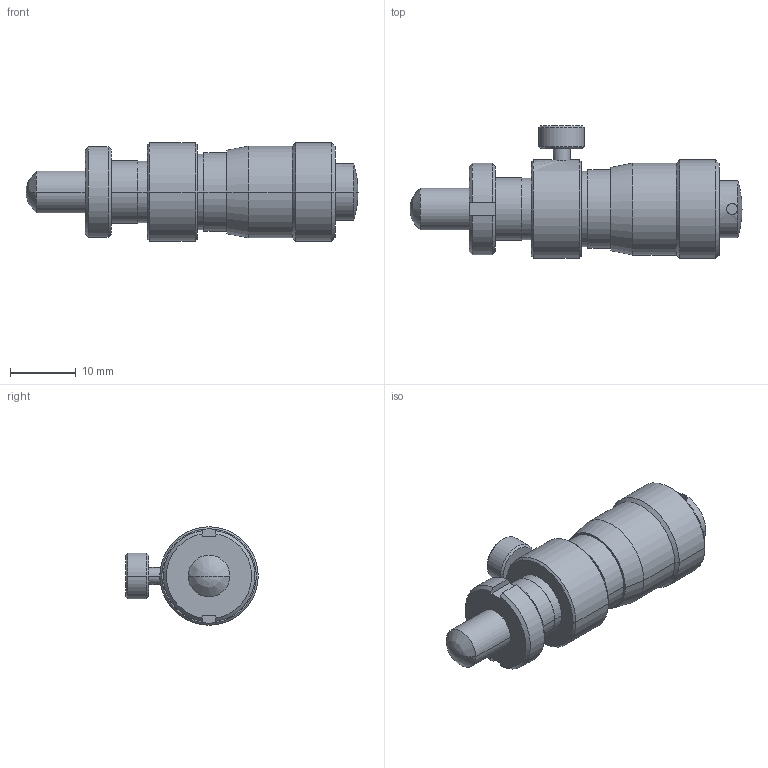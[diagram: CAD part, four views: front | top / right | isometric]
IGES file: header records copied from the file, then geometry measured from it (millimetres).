
Start section: Elysium IGES Interface
Global section: file name: 72HR:\01_商品設計部\01_MK外ﾃｰﾏ(U)\15_MH_3D\IGESﾌｧｲﾙ\148-319_MHC4-6.5CLC.igs; native system: Creo Elements/Direct Modeling 18.1B  29-Sep-2012; preprocessor: Creo Element/Direct IGES_3D V2.2; author: Unknown; organization: Unknown; date: 20140624.082124; units: millimetre
Bounding box: 50.6 x 20.2 x 15 mm (x, y, z)
Volume: 6041.4 mm3; surface area: 2579.2 mm2
Topology: 1 solids, 1 shells, 65 faces, 143 edges, 86 vertices
Faces by surface type: bspline 65
